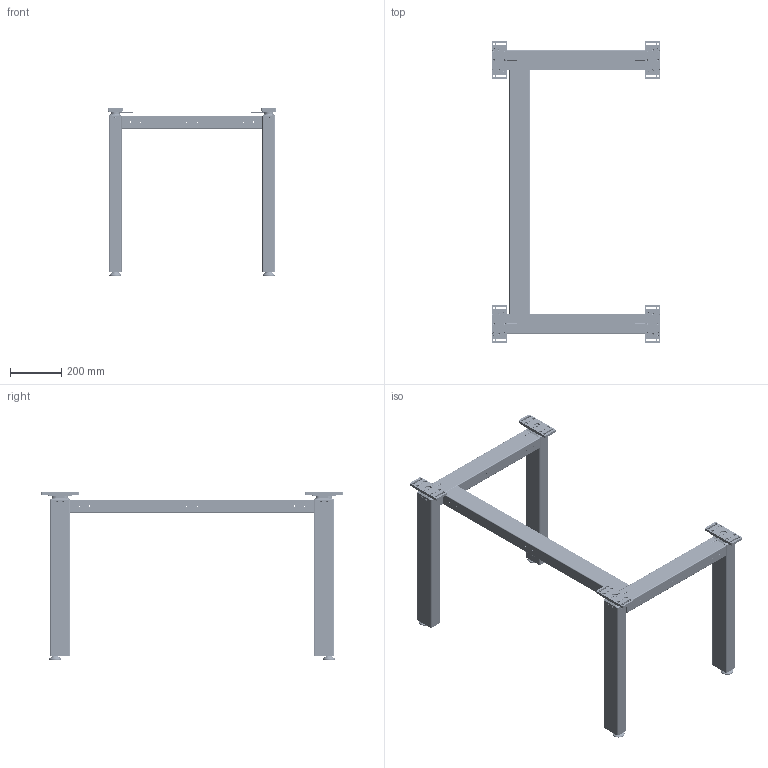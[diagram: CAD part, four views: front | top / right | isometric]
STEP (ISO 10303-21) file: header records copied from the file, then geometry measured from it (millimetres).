
FILE_DESCRIPTION(/* description */ ('Unknown'),/* implementation_level */ '2;1');
FILE_NAME(/* name */ '108.00070_02-Eingefahren',/* time_stamp */ '2022-02-09T14:31:41+01:00',/* author */ ('Unknown'),/* organization */ ('Unknown'),/* preprocessor_version */ 'ST-DEVELOPER v18.1',/* originating_system */ 'Solid Edge',/* authorisation */ 'Unknown');
FILE_SCHEMA (('AUTOMOTIVE_DESIGN {1 0 10303 214 3 1 1}'));
Length unit declared in the file: millimetre
Products named in the file (42): 108.00070; 306.00090_oa_0; 124.00004; 107.00147_oa_1; 125.00021; 115.00007_oa_2; 125.00033; 125.00022; 127.00038; 127.00034_oa_3; Aussenprofil TA 1450; 127.00035; Innenprofil TA 1450; Abschlussplatte; 127.00048; Schraube 2,9x6,4; 127.00034_2’403_2’488_Kehlnaht 1_oa_4; 113.00002_70mm; 142.00031; 142.00077; 306.00090_oa_5; 107.00147_oa_6; 115.00007_oa_7; 127.00034_oa_8; 127.00034_2’403_2’488_Kehlnaht 1_oa_9; 115.00150; 127.00365; 113.00006; 113.00006-ohne Mutter; Mutter M10; 306.00090_oa_10; 107.00147_oa_11; 115.00007_oa_12; 127.00034_oa_13; 127.00034_2’403_2’488_Kehlnaht 1_oa_14; 115.00152; 127.00367; 306.00090_oa_15; 107.00147_oa_16; 115.00007_oa_17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
Assembly tree (119 placements, depth 4):
  108.00070
    306.00090_oa_0
      124.00004
      107.00147_oa_1
        125.00021
        115.00007_oa_2
        125.00033
        125.00022
      127.00038
      127.00034_oa_3
        Aussenprofil TA 1450
        127.00035
        Innenprofil TA 1450
        Abschlussplatte
        127.00048
        Schraube 2,9x6,4  x6
        127.00034_2’403_2’488_Kehlnaht 1_oa_4
      113.00002_70mm
      142.00031
      142.00077  x4
    306.00090_oa_5
      124.00004
      107.00147_oa_6
        125.00021
        115.00007_oa_7
        125.00033
        125.00022
      127.00038
      127.00034_oa_8
        Aussenprofil TA 1450
        127.00035
        Innenprofil TA 1450
        Abschlussplatte
        127.00048
        Schraube 2,9x6,4  x6
        127.00034_2’403_2’488_Kehlnaht 1_oa_9
      113.00002_70mm
      142.00031
      142.00077  x4
    115.00150  x2
      127.00365
    113.00006  x4
      113.00006-ohne Mutter
      Mutter M10
    306.00090_oa_10
      124.00004
      107.00147_oa_11
        125.00021
        115.00007_oa_12
        125.00033
        125.00022
      127.00038
      127.00034_oa_13
        Aussenprofil TA 1450
        127.00035
        Innenprofil TA 1450
        Abschlussplatte
        127.00048
        Schraube 2,9x6,4  x6
        127.00034_2’403_2’488_Kehlnaht 1_oa_14
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Bounding box: 660 x 1180 x 653 mm (x, y, z)
Volume: 3511582.3 mm3; surface area: 3279580.8 mm2
Topology: 115 solids, 115 shells, 4318 faces, 10244 edges, 6180 vertices
Faces by surface type: cylinder 1660, plane 1446, bspline 516, cone 344, torus 304, sphere 48
Full cylindrical faces by diameter (mm): 1.8 x8, 2.2 x4, 2.5 x24, 2.78 x4, 2.9 x24, 3.5 x4, 4 x4, 4.1 x8, 4.2 x4, 4.9 x8, 4.917 x102, 5.8 x32, 6 x16, 6.5 x28, 6.647 x12, 6.8 x24, 6.917 x8, 7 x16, 8 x12, 8.376 x4, 9 x58, 9.5 x4, 10 x20, 12 x4, 12.5 x4, 13 x24, 13.5 x4, 13.9 x8, 15 x4, 19 x4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
Entity records: 35151 total; most frequent: CARTESIAN_POINT 7872, DIRECTION 4873, ORIENTED_EDGE 4306, EDGE_CURVE 2153, AXIS2_PLACEMENT_3D 1978, FACE_BOUND 1569, EDGE_LOOP 1568, VERTEX_POINT 1470
